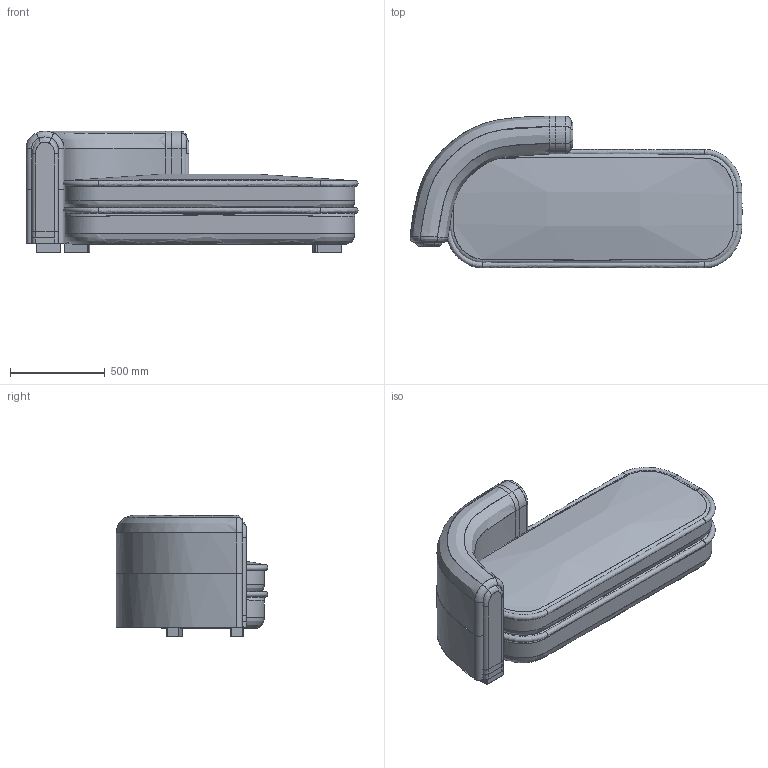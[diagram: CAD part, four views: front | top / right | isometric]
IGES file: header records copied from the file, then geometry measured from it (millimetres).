
Global section: file name: C:\Users\market02\Desktop\RYAN\3D\Buenos aires 170 ET 200\exportation\FBUENME170_MERIDIENNE_CHAISE LOUNGE_BUENOS AIRES\FBUENME170_MERIDIENNE_CHAISE LOUNGE_BUENOS AIRES.igs; native system: Rhinoceros ( Dec 14 2021 ); preprocessor: Trout Lake IGES 012 Dec 14 2021; date: 220304.122527; units: centimetre
Bounding box: 1755.36 x 801.06 x 641.99 mm (x, y, z)
Surface area: 7934980.4 mm2 (no closed solid volume)
Topology: 0 solids, 0 shells, 186 faces, 2197 edges, 2175 vertices
Faces by surface type: bspline 186
